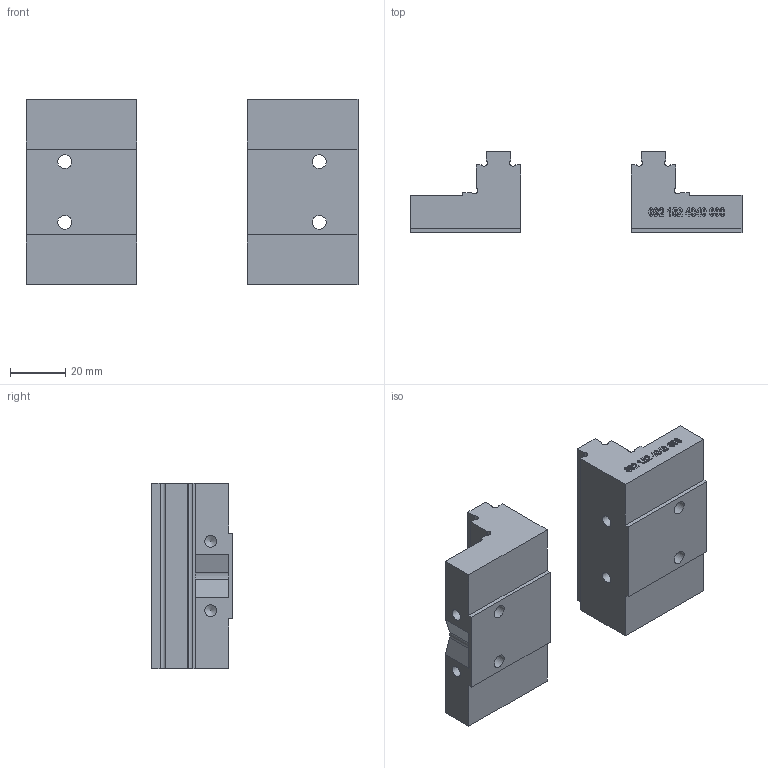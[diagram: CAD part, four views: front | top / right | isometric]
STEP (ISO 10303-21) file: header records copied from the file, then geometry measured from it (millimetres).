
FILE_DESCRIPTION (( 'STEP AP214' ), '1' );
FILE_NAME ('3D-6921524030031.STEP', '2023-12-04T09:47:37', ( '' ), ( '' ), 'SwSTEP 2.0', 'SolidWorks 2021', '' );
FILE_SCHEMA (( 'AUTOMOTIVE_DESIGN' ));
Length unit declared in the file: millimetre
Products named in the file (3): 3D-6921524030000; 3D-6921524040000; 3D-6921524030031
Assembly tree (2 placements, depth 2):
  3D-6921524030031
    3D-6921524030000
    3D-6921524040000
Bounding box: 120 x 29.5 x 67 mm (x, y, z)
Volume: 94863.2 mm3; surface area: 23685.3 mm2
Topology: 2 solids, 2 shells, 431 faces, 1135 edges, 752 vertices
Faces by surface type: bspline 200, plane 199, cylinder 20, cone 12
Full cylindrical faces by diameter (mm): 4.2 x8, 5 x4
Entity records: 24711 total; most frequent: CARTESIAN_POINT 15227, ORIENTED_EDGE 2198, DIRECTION 1215, EDGE_CURVE 1099, VERTEX_POINT 740, VECTOR 655, LINE 655, EDGE_LOOP 507
